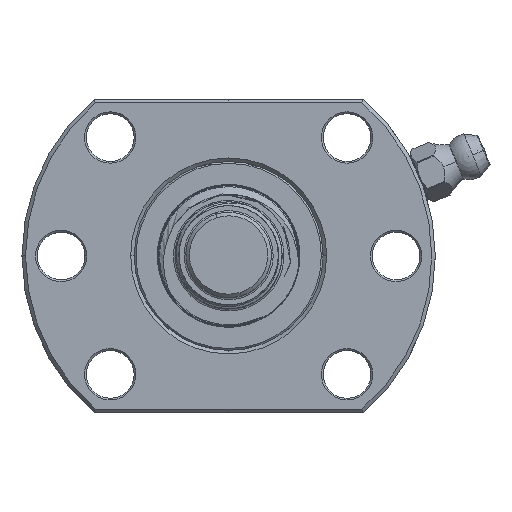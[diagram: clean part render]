
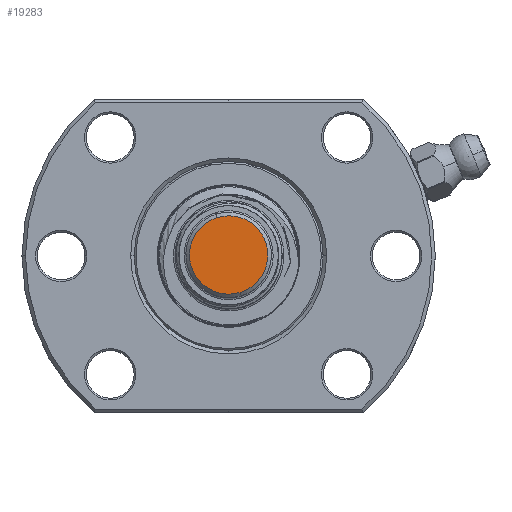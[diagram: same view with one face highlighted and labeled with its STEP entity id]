
A CAD part, top view. The second image highlights one B-rep face of the part: STEP entity #19283.
In plain terms, the highlighted planar face has unit normal (0, 0, 1).
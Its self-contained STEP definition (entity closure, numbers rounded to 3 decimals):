
#1052 = CIRCLE ( 'NONE', #8775, 5.5 ) ;
#2581 = ORIENTED_EDGE ( 'NONE', *, *, #30371, .T. ) ;
#5593 = EDGE_CURVE ( 'NONE', #48715, #10584, #36132, .T. ) ;
#8448 = ORIENTED_EDGE ( 'NONE', *, *, #5593, .T. ) ;
#8775 = AXIS2_PLACEMENT_3D ( 'NONE', #19525, #61959, #25610 ) ;
#10584 = VERTEX_POINT ( 'NONE', #29028 ) ;
#12962 = DIRECTION ( 'NONE',  ( 0., 0., 1. ) ) ;
#14945 = AXIS2_PLACEMENT_3D ( 'NONE', #31999, #74422, #38114 ) ;
#19283 = ADVANCED_FACE ( 'NONE', ( #69030 ), #43220, .T. ) ;
#19525 = CARTESIAN_POINT ( 'NONE',  ( 0., 0., 0. ) ) ;
#21850 = AXIS2_PLACEMENT_3D ( 'NONE', #73429, #12962, #55404 ) ;
#25610 = DIRECTION ( 'NONE',  ( 1., 0., 0. ) ) ;
#29028 = CARTESIAN_POINT ( 'NONE',  ( -5.5, 0., 0. ) ) ;
#30371 = EDGE_CURVE ( 'NONE', #10584, #48715, #1052, .T. ) ;
#31999 = CARTESIAN_POINT ( 'NONE',  ( 0., 0., 0. ) ) ;
#36132 = CIRCLE ( 'NONE', #14945, 5.5 ) ;
#38114 = DIRECTION ( 'NONE',  ( 1., 0., 0. ) ) ;
#43220 = PLANE ( 'NONE',  #21850 ) ;
#46118 = EDGE_LOOP ( 'NONE', ( #2581, #8448 ) ) ;
#48715 = VERTEX_POINT ( 'NONE', #50033 ) ;
#50033 = CARTESIAN_POINT ( 'NONE',  ( 5.5, 0., 0. ) ) ;
#55404 = DIRECTION ( 'NONE',  ( 1., 0., 0. ) ) ;
#61959 = DIRECTION ( 'NONE',  ( 0., 0., 1. ) ) ;
#69030 = FACE_OUTER_BOUND ( 'NONE', #46118, .T. ) ;
#73429 = CARTESIAN_POINT ( 'NONE',  ( 0., 0., 0. ) ) ;
#74422 = DIRECTION ( 'NONE',  ( 0., 0., 1. ) ) ;
